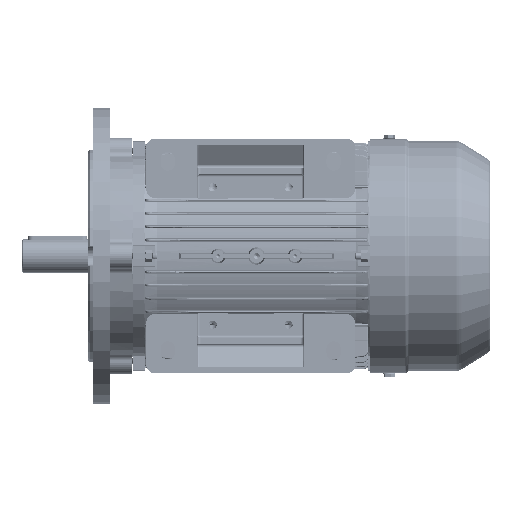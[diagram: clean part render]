
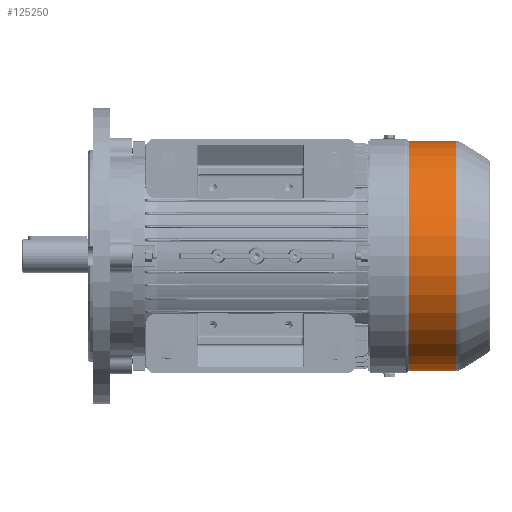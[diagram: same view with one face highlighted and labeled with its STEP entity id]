
A CAD part, front view. The second image highlights one B-rep face of the part: STEP entity #125250.
In plain terms, the highlighted cylindrical face has radius 97 mm (diameter 194 mm), a partial arc.
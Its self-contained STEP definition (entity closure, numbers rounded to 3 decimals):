
#6497 = EDGE_CURVE ( 'NONE', #15310, #131555, #153079, .T. ) ;
#9397 = AXIS2_PLACEMENT_3D ( 'NONE', #146494, #133098, #11255 ) ;
#11255 = DIRECTION ( 'NONE',  ( 0., 0., 1. ) ) ;
#12423 = DIRECTION ( 'NONE',  ( 0., 0., 1. ) ) ;
#13237 = CIRCLE ( 'NONE', #47223, 97. ) ;
#13421 = VECTOR ( 'NONE', #84472, 1000. ) ;
#15072 = CIRCLE ( 'NONE', #155639, 97. ) ;
#15310 = VERTEX_POINT ( 'NONE', #63578 ) ;
#15462 = EDGE_CURVE ( 'NONE', #38882, #49675, #130656, .T. ) ;
#31177 = ORIENTED_EDGE ( 'NONE', *, *, #15462, .T. ) ;
#36509 = CARTESIAN_POINT ( 'NONE',  ( 0., 0., -97. ) ) ;
#38882 = VERTEX_POINT ( 'NONE', #48023 ) ;
#47223 = AXIS2_PLACEMENT_3D ( 'NONE', #57381, #107787, #58445 ) ;
#48023 = CARTESIAN_POINT ( 'NONE',  ( -32.828, 0., 97. ) ) ;
#49675 = VERTEX_POINT ( 'NONE', #138879 ) ;
#53604 = ORIENTED_EDGE ( 'NONE', *, *, #6497, .F. ) ;
#55836 = CARTESIAN_POINT ( 'NONE',  ( -72.118, 0., -97. ) ) ;
#57381 = CARTESIAN_POINT ( 'NONE',  ( -72.118, 0., 0. ) ) ;
#58445 = DIRECTION ( 'NONE',  ( 0., 0., -1. ) ) ;
#63578 = CARTESIAN_POINT ( 'NONE',  ( -32.828, 0., -97. ) ) ;
#65608 = EDGE_LOOP ( 'NONE', ( #53604, #89094, #31177, #146992 ) ) ;
#70519 = VECTOR ( 'NONE', #158949, 1000. ) ;
#81694 = CYLINDRICAL_SURFACE ( 'NONE', #9397, 97. ) ;
#83951 = CARTESIAN_POINT ( 'NONE',  ( 0., 0., 97. ) ) ;
#84472 = DIRECTION ( 'NONE',  ( -1., 0., 0. ) ) ;
#86459 = DIRECTION ( 'NONE',  ( -1., 0., 0. ) ) ;
#86986 = CARTESIAN_POINT ( 'NONE',  ( -32.828, 0., 0. ) ) ;
#89094 = ORIENTED_EDGE ( 'NONE', *, *, #117198, .T. ) ;
#100321 = EDGE_CURVE ( 'NONE', #49675, #131555, #13237, .T. ) ;
#107787 = DIRECTION ( 'NONE',  ( 1., 0., 0. ) ) ;
#114260 = FACE_OUTER_BOUND ( 'NONE', #65608, .T. ) ;
#117198 = EDGE_CURVE ( 'NONE', #15310, #38882, #15072, .T. ) ;
#125250 = ADVANCED_FACE ( 'NONE', ( #114260 ), #81694, .T. ) ;
#130656 = LINE ( 'NONE', #83951, #13421 ) ;
#131555 = VERTEX_POINT ( 'NONE', #55836 ) ;
#133098 = DIRECTION ( 'NONE',  ( -1., 0., 0. ) ) ;
#138879 = CARTESIAN_POINT ( 'NONE',  ( -72.118, 0., 97. ) ) ;
#146494 = CARTESIAN_POINT ( 'NONE',  ( 0., 0., 0. ) ) ;
#146992 = ORIENTED_EDGE ( 'NONE', *, *, #100321, .T. ) ;
#153079 = LINE ( 'NONE', #36509, #70519 ) ;
#155639 = AXIS2_PLACEMENT_3D ( 'NONE', #86986, #86459, #12423 ) ;
#158949 = DIRECTION ( 'NONE',  ( -1., 0., 0. ) ) ;
